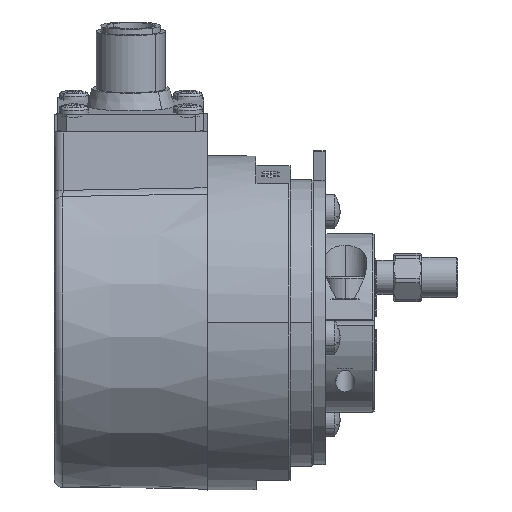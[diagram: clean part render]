
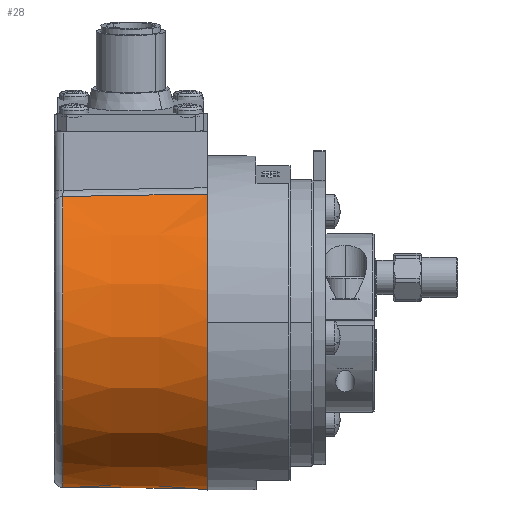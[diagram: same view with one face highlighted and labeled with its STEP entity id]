
A CAD part, top view. The second image highlights one B-rep face of the part: STEP entity #28.
In plain terms, the highlighted conical face has half-angle 0.75 degrees and reference radius 29 mm.
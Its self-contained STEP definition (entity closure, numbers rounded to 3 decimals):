
#3 = VERTEX_POINT ( 'NONE', #4981 ) ;
#6 = VERTEX_POINT ( 'NONE', #4975 ) ;
#12 = ORIENTED_EDGE ( 'NONE', *, *, #23, .T. ) ;
#14 = VERTEX_POINT ( 'NONE', #4968 ) ;
#18 = EDGE_CURVE ( 'NONE', #19, #3, #4987, .T. ) ;
#19 = VERTEX_POINT ( 'NONE', #4988 ) ;
#22 = ORIENTED_EDGE ( 'NONE', *, *, #18, .T. ) ;
#23 = EDGE_CURVE ( 'NONE', #14, #19, #5026, .T. ) ;
#24 = ORIENTED_EDGE ( 'NONE', *, *, #32, .T. ) ;
#25 = ORIENTED_EDGE ( 'NONE', *, *, #27, .T. ) ;
#26 = EDGE_LOOP ( 'NONE', ( #24, #25, #12, #22 ) ) ;
#27 = EDGE_CURVE ( 'NONE', #6, #14, #5020, .T. ) ;
#28 = ADVANCED_FACE ( 'NONE', ( #5016 ), #5060, .T. ) ;
#32 = EDGE_CURVE ( 'NONE', #3, #6, #5046, .T. ) ;
#4968 = CARTESIAN_POINT ( 'NONE',  ( 7.5, -28.784, -3.534 ) ) ;
#4975 = CARTESIAN_POINT ( 'NONE',  ( -17.52, -28.459, -3.494 ) ) ;
#4981 = CARTESIAN_POINT ( 'NONE',  ( -17.52, 21.923, 18.479 ) ) ;
#4986 = CARTESIAN_POINT ( 'NONE',  ( 7.5, 22.36, 18.467 ) ) ;
#4987 = B_SPLINE_CURVE_WITH_KNOTS ( 'NONE', 3,
 ( #4986, #5039, #5038, #5037, #5036, #5035, #5034, #5033, #5032, #5031 ),
 .UNSPECIFIED., .F., .F.,
 ( 4, 3, 3, 4 ),
 ( 0., 0.003, 0.015, 0.025 ),
 .UNSPECIFIED. ) ;
#4988 = CARTESIAN_POINT ( 'NONE',  ( 7.5, 22.36, 18.467 ) ) ;
#5016 = FACE_OUTER_BOUND ( 'NONE', #26, .T. ) ;
#5017 = DIRECTION ( 'NONE',  ( 1., -0.013, -0.002 ) ) ;
#5018 = VECTOR ( 'NONE', #5017, 1000. ) ;
#5019 = CARTESIAN_POINT ( 'NONE',  ( 7.5, -28.784, -3.534 ) ) ;
#5020 = LINE ( 'NONE', #5019, #5018 ) ;
#5022 = DIRECTION ( 'NONE',  ( 0., 0.993, 0.122 ) ) ;
#5023 = DIRECTION ( 'NONE',  ( -1., 0., 0. ) ) ;
#5024 = CARTESIAN_POINT ( 'NONE',  ( 7.5, 0., 0. ) ) ;
#5025 = AXIS2_PLACEMENT_3D ( 'NONE', #5024, #5023, #5022 ) ;
#5026 = CIRCLE ( 'NONE', #5025, 29. ) ;
#5031 = CARTESIAN_POINT ( 'NONE',  ( -17.52, 21.923, 18.479 ) ) ;
#5032 = CARTESIAN_POINT ( 'NONE',  ( -14.179, 21.982, 18.477 ) ) ;
#5033 = CARTESIAN_POINT ( 'NONE',  ( -10.838, 22.04, 18.476 ) ) ;
#5034 = CARTESIAN_POINT ( 'NONE',  ( -7.498, 22.099, 18.474 ) ) ;
#5035 = CARTESIAN_POINT ( 'NONE',  ( -3.498, 22.169, 18.472 ) ) ;
#5036 = CARTESIAN_POINT ( 'NONE',  ( 0.501, 22.238, 18.47 ) ) ;
#5037 = CARTESIAN_POINT ( 'NONE',  ( 4.5, 22.308, 18.469 ) ) ;
#5038 = CARTESIAN_POINT ( 'NONE',  ( 5.5, 22.325, 18.468 ) ) ;
#5039 = CARTESIAN_POINT ( 'NONE',  ( 6.5, 22.343, 18.468 ) ) ;
#5042 = DIRECTION ( 'NONE',  ( 0., 0.993, 0.122 ) ) ;
#5043 = DIRECTION ( 'NONE',  ( 1., 0., 0. ) ) ;
#5044 = CARTESIAN_POINT ( 'NONE',  ( -17.52, 0., 0. ) ) ;
#5045 = AXIS2_PLACEMENT_3D ( 'NONE', #5044, #5043, #5042 ) ;
#5046 = CIRCLE ( 'NONE', #5045, 28.672 ) ;
#5055 = DIRECTION ( 'NONE',  ( 0., -0.993, -0.122 ) ) ;
#5056 = DIRECTION ( 'NONE',  ( 1., 0., 0. ) ) ;
#5057 = CARTESIAN_POINT ( 'NONE',  ( 7.5, 0., 0. ) ) ;
#5058 = AXIS2_PLACEMENT_3D ( 'NONE', #5057, #5056, #5055 ) ;
#5060 = CONICAL_SURFACE ( 'NONE', #5058, 29., 0.013 ) ;
